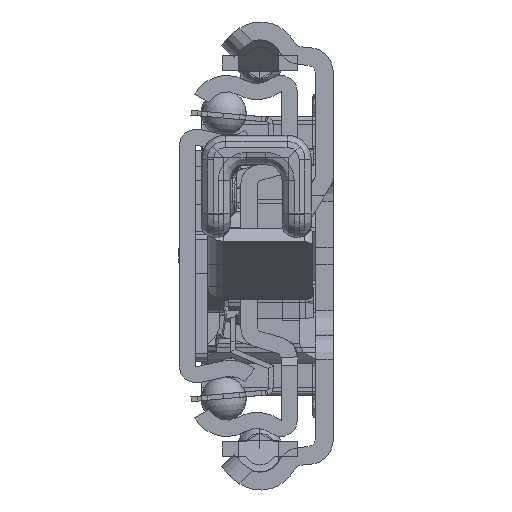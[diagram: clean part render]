
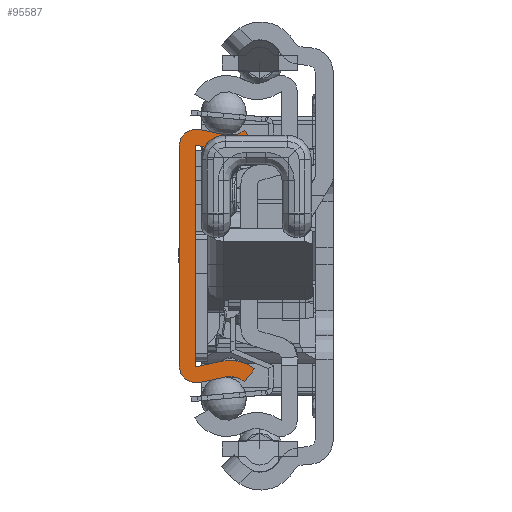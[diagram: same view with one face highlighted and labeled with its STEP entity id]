
A CAD part, left-side view. The second image highlights one B-rep face of the part: STEP entity #95587.
In plain terms, the highlighted planar face has unit normal (-1, 0, 0).
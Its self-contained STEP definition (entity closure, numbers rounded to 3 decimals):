
#89148=CARTESIAN_POINT('',(0.,-6.29,-17.65));
#89149=DIRECTION('',(-1.,0.,0.));
#89150=DIRECTION('',(0.,-0.629,0.778));
#89151=AXIS2_PLACEMENT_3D('',#89148,#89149,#89150);
#89153=DIRECTION('',(0.,0.977,-0.213));
#89154=VECTOR('',#89153,3.218);
#89155=CARTESIAN_POINT('',(0.,-5.692,-14.915));
#89156=LINE('',#89155,#89154);
#89157=CARTESIAN_POINT('',(0.,-2.1,-13.55));
#89158=DIRECTION('',(1.,0.,0.));
#89159=DIRECTION('',(0.,-0.213,-0.977));
#89160=AXIS2_PLACEMENT_3D('',#89157,#89158,#89159);
#89162=DIRECTION('',(0.,0.,1.));
#89163=VECTOR('',#89162,27.1);
#89164=CARTESIAN_POINT('',(0.,0.,-13.55));
#89165=LINE('',#89164,#89163);
#89166=CARTESIAN_POINT('',(0.,-2.1,13.55));
#89167=DIRECTION('',(1.,0.,0.));
#89168=DIRECTION('',(0.,1.,0.));
#89169=AXIS2_PLACEMENT_3D('',#89166,#89167,#89168);
#89171=DIRECTION('',(0.,-0.977,-0.213));
#89172=VECTOR('',#89171,3.218);
#89173=CARTESIAN_POINT('',(0.,-2.548,15.602));
#89174=LINE('',#89173,#89172);
#89175=CARTESIAN_POINT('',(0.,-6.29,17.65));
#89176=DIRECTION('',(-1.,0.,0.));
#89177=DIRECTION('',(0.,0.213,-0.977));
#89178=AXIS2_PLACEMENT_3D('',#89175,#89176,#89177);
#89180=DIRECTION('',(0.,-0.629,-0.778));
#89181=VECTOR('',#89180,2.);
#89182=CARTESIAN_POINT('',(0.,-8.05,15.472));
#89183=LINE('',#89182,#89181);
#89184=CARTESIAN_POINT('',(0.,-6.29,17.65));
#89185=DIRECTION('',(1.,0.,0.));
#89186=DIRECTION('',(0.,-0.629,-0.778));
#89187=AXIS2_PLACEMENT_3D('',#89184,#89185,#89186);
#89189=DIRECTION('',(0.,0.977,0.213));
#89190=VECTOR('',#89189,3.218);
#89191=CARTESIAN_POINT('',(0.,-5.265,12.961));
#89192=LINE('',#89191,#89190);
#89193=CARTESIAN_POINT('',(0.,-2.1,13.55));
#89194=DIRECTION('',(-1.,0.,0.));
#89195=DIRECTION('',(0.,-0.213,0.977));
#89196=AXIS2_PLACEMENT_3D('',#89193,#89194,#89195);
#89198=DIRECTION('',(0.,0.,-1.));
#89199=VECTOR('',#89198,27.1);
#89200=CARTESIAN_POINT('',(0.,-2.,13.55));
#89201=LINE('',#89200,#89199);
#89202=CARTESIAN_POINT('',(0.,-2.1,-13.55));
#89203=DIRECTION('',(-1.,0.,0.));
#89204=DIRECTION('',(0.,1.,0.));
#89205=AXIS2_PLACEMENT_3D('',#89202,#89203,#89204);
#89207=DIRECTION('',(0.,-0.977,0.213));
#89208=VECTOR('',#89207,3.218);
#89209=CARTESIAN_POINT('',(0.,-2.121,-13.648));
#89210=LINE('',#89209,#89208);
#89211=CARTESIAN_POINT('',(0.,-6.29,-17.65));
#89212=DIRECTION('',(1.,0.,0.));
#89213=DIRECTION('',(0.,0.213,0.977));
#89214=AXIS2_PLACEMENT_3D('',#89211,#89212,#89213);
#89216=DIRECTION('',(0.,0.629,-0.778));
#89217=VECTOR('',#89216,2.);
#89218=CARTESIAN_POINT('',(0.,-9.307,-13.917));
#89219=LINE('',#89218,#89217);
#94352=CARTESIAN_POINT('',(0.,-8.05,-15.472));
#94353=CARTESIAN_POINT('',(0.,-5.692,-14.915));
#94354=VERTEX_POINT('',#94352);
#94355=VERTEX_POINT('',#94353);
#94356=CARTESIAN_POINT('',(0.,-2.548,-15.602));
#94357=VERTEX_POINT('',#94356);
#94358=CARTESIAN_POINT('',(0.,0.,-13.55));
#94359=VERTEX_POINT('',#94358);
#94360=CARTESIAN_POINT('',(0.,0.,13.55));
#94361=VERTEX_POINT('',#94360);
#94362=CARTESIAN_POINT('',(0.,-2.548,15.602));
#94363=VERTEX_POINT('',#94362);
#94364=CARTESIAN_POINT('',(0.,-5.692,14.915));
#94365=VERTEX_POINT('',#94364);
#94366=CARTESIAN_POINT('',(0.,-8.05,15.472));
#94367=VERTEX_POINT('',#94366);
#94368=CARTESIAN_POINT('',(0.,-9.307,13.917));
#94369=VERTEX_POINT('',#94368);
#94370=CARTESIAN_POINT('',(0.,-5.265,12.961));
#94371=VERTEX_POINT('',#94370);
#94372=CARTESIAN_POINT('',(0.,-2.121,13.648));
#94373=VERTEX_POINT('',#94372);
#94374=CARTESIAN_POINT('',(0.,-2.,13.55));
#94375=VERTEX_POINT('',#94374);
#94376=CARTESIAN_POINT('',(0.,-2.,-13.55));
#94377=VERTEX_POINT('',#94376);
#94378=CARTESIAN_POINT('',(0.,-2.121,-13.648));
#94379=VERTEX_POINT('',#94378);
#94380=CARTESIAN_POINT('',(0.,-5.265,-12.961));
#94381=VERTEX_POINT('',#94380);
#94382=CARTESIAN_POINT('',(0.,-9.307,-13.917));
#94383=VERTEX_POINT('',#94382);
#95548=CARTESIAN_POINT('',(0.,0.,0.));
#95549=DIRECTION('',(1.,0.,0.));
#95550=DIRECTION('',(0.,-1.,0.));
#95551=AXIS2_PLACEMENT_3D('',#95548,#95549,#95550);
#95552=PLANE('',#95551);
#95554=ORIENTED_EDGE('',*,*,#95553,.T.);
#95556=ORIENTED_EDGE('',*,*,#95555,.T.);
#95558=ORIENTED_EDGE('',*,*,#95557,.T.);
#95560=ORIENTED_EDGE('',*,*,#95559,.T.);
#95562=ORIENTED_EDGE('',*,*,#95561,.T.);
#95564=ORIENTED_EDGE('',*,*,#95563,.T.);
#95566=ORIENTED_EDGE('',*,*,#95565,.T.);
#95568=ORIENTED_EDGE('',*,*,#95567,.T.);
#95570=ORIENTED_EDGE('',*,*,#95569,.T.);
#95572=ORIENTED_EDGE('',*,*,#95571,.T.);
#95574=ORIENTED_EDGE('',*,*,#95573,.T.);
#95576=ORIENTED_EDGE('',*,*,#95575,.T.);
#95578=ORIENTED_EDGE('',*,*,#95577,.T.);
#95580=ORIENTED_EDGE('',*,*,#95579,.T.);
#95582=ORIENTED_EDGE('',*,*,#95581,.T.);
#95584=ORIENTED_EDGE('',*,*,#95583,.T.);
#95585=EDGE_LOOP('',(#95554,#95556,#95558,#95560,#95562,#95564,#95566,#95568,
#95570,#95572,#95574,#95576,#95578,#95580,#95582,#95584));
#95586=FACE_OUTER_BOUND('',#95585,.F.);
#89152=CIRCLE('',#89151,2.8);
#89161=CIRCLE('',#89160,2.1);
#89170=CIRCLE('',#89169,2.1);
#89179=CIRCLE('',#89178,2.8);
#89188=CIRCLE('',#89187,4.8);
#89197=CIRCLE('',#89196,0.1);
#89206=CIRCLE('',#89205,0.1);
#89215=CIRCLE('',#89214,4.8);
#95553=EDGE_CURVE('',#94354,#94355,#89152,.T.);
#95555=EDGE_CURVE('',#94355,#94357,#89156,.T.);
#95557=EDGE_CURVE('',#94357,#94359,#89161,.T.);
#95559=EDGE_CURVE('',#94359,#94361,#89165,.T.);
#95561=EDGE_CURVE('',#94361,#94363,#89170,.T.);
#95563=EDGE_CURVE('',#94363,#94365,#89174,.T.);
#95565=EDGE_CURVE('',#94365,#94367,#89179,.T.);
#95567=EDGE_CURVE('',#94367,#94369,#89183,.T.);
#95569=EDGE_CURVE('',#94369,#94371,#89188,.T.);
#95571=EDGE_CURVE('',#94371,#94373,#89192,.T.);
#95573=EDGE_CURVE('',#94373,#94375,#89197,.T.);
#95575=EDGE_CURVE('',#94375,#94377,#89201,.T.);
#95577=EDGE_CURVE('',#94377,#94379,#89206,.T.);
#95579=EDGE_CURVE('',#94379,#94381,#89210,.T.);
#95581=EDGE_CURVE('',#94381,#94383,#89215,.T.);
#95583=EDGE_CURVE('',#94383,#94354,#89219,.T.);
#95587=ADVANCED_FACE('',(#95586),#95552,.F.);
